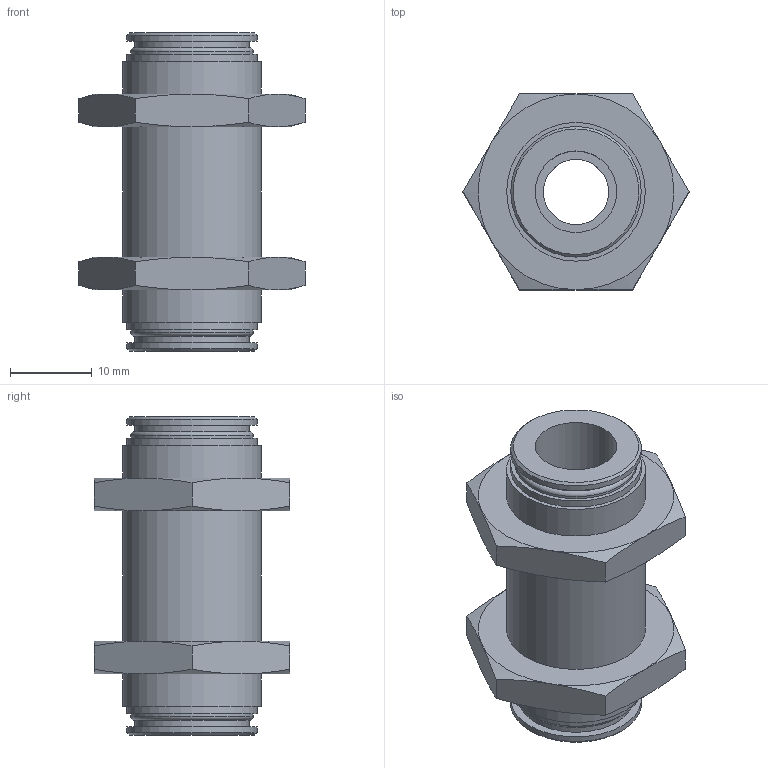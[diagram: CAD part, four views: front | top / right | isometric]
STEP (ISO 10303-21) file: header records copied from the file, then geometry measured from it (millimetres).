
FILE_DESCRIPTION(/* description */ (''),/* implementation_level */ '2;1');
FILE_NAME(/* name */ 'LXH13 1010 00.stp',/* time_stamp */ '2026-04-20T19:59:35+02:00',/* author */ ('freju'),/* organization */ (''),/* preprocessor_version */ 'ST-DEVELOPER v20.1',/* originating_system */ 'Autodesk Inventor 2026',/* authorisation */ '');
FILE_SCHEMA (('AUTOMOTIVE_DESIGN { 1 0 10303 214 3 1 1 }'));
Length unit declared in the file: millimetre
Products named in the file (1): LXH13 1010 00
Bounding box: 27.71 x 24 x 39 mm (x, y, z)
Volume: 7689.8 mm3; surface area: 5030.7 mm2
Topology: 1 solids, 1 shells, 68 faces, 138 edges, 84 vertices
Faces by surface type: cone 26, plane 26, cylinder 14, torus 2
Full cylindrical faces by diameter (mm): 8 x1, 10 x2, 14 x2, 15 x2, 16 x4, 17 x3
Entity records: 1771 total; most frequent: CARTESIAN_POINT 387, DIRECTION 290, ORIENTED_EDGE 276, EDGE_CURVE 138, AXIS2_PLACEMENT_3D 131, VERTEX_POINT 84, EDGE_LOOP 82, FACE_OUTER_BOUND 68
